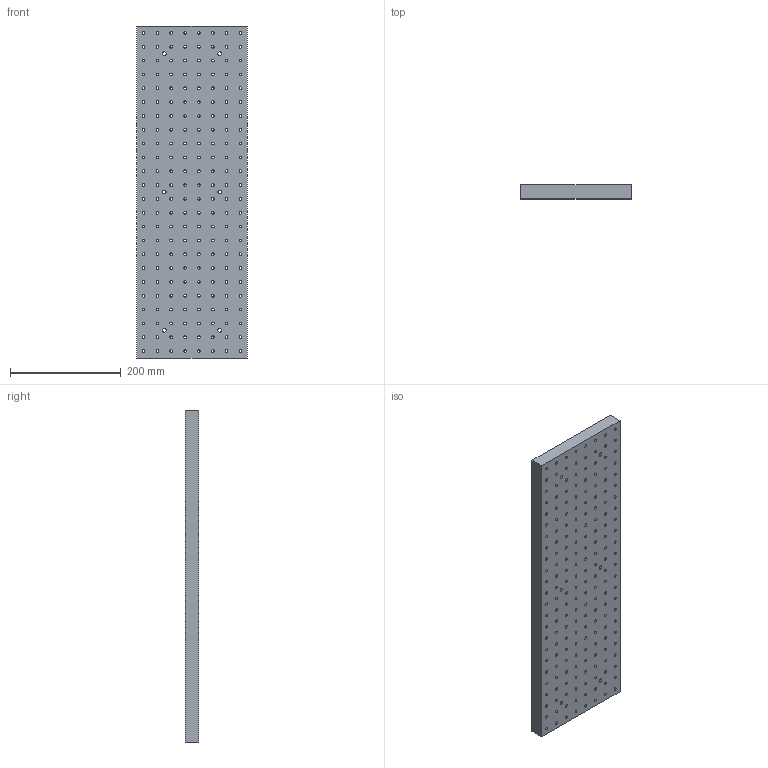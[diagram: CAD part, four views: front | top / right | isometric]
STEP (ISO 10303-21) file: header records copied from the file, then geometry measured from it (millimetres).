
FILE_DESCRIPTION(/* description */ (''),/* implementation_level */ '2;1');
FILE_NAME(/* name */ '',/* time_stamp */ '2025-12-02T11:23:01+08:00',/* author */ ('Q'),/* organization */ (''),/* preprocessor_version */ 'ST-DEVELOPER v20',/* originating_system */ 'Autodesk Inventor 2025',/* authorisation */ '');
FILE_SCHEMA (('AUTOMOTIVE_DESIGN { 1 0 10303 214 3 1 1 }'));
Length unit declared in the file: millimetre
Products named in the file (1): 986小长板V2
Bounding box: 200 x 25 x 600 mm (x, y, z)
Volume: 2898969.4 mm3; surface area: 350453.8 mm2
Topology: 1 solids, 1 shells, 216 faces, 628 edges, 426 vertices
Faces by surface type: cylinder 204, plane 12
Full cylindrical faces by diameter (mm): 4.917 x192, 6.6 x6, 14.55 x6
Entity records: 8219 total; most frequent: DIRECTION 1466, CARTESIAN_POINT 1267, ORIENTED_EDGE 1248, AXIS2_PLACEMENT_3D 625, EDGE_CURVE 624, EDGE_LOOP 618, VERTEX_POINT 416, CIRCLE 408
